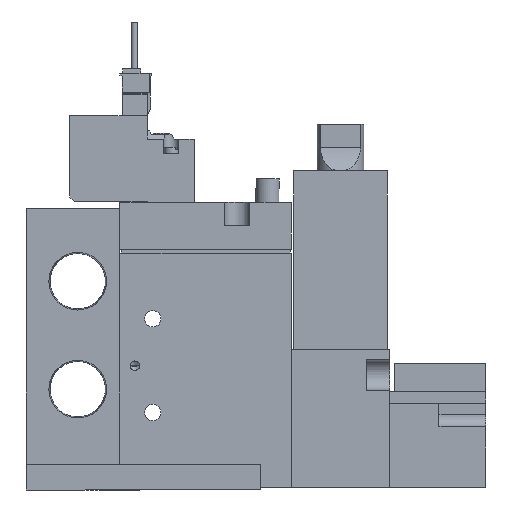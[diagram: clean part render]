
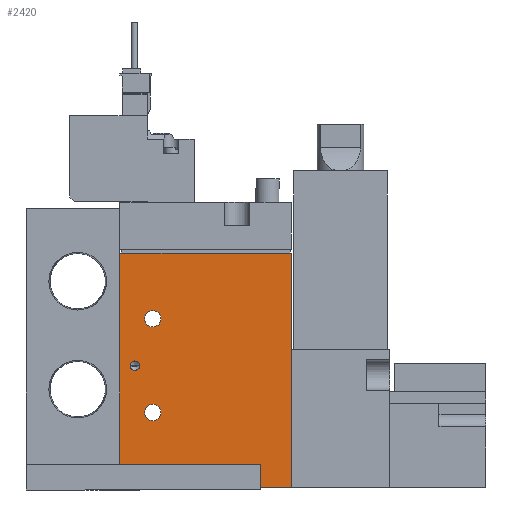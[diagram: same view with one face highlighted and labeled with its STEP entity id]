
A CAD part, left-side view. The second image highlights one B-rep face of the part: STEP entity #2420.
In plain terms, the highlighted planar face has unit normal (-1, 0, 0) as drawn and (1, 0, 0) by its records, which use the part's own axes.
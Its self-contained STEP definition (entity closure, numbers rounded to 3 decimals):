
#2420=ADVANCED_FACE('',(#3570,#3571,#3572,#3573),#3574,.F.);
#3570=FACE_BOUND('',#6017,.T.);
#3571=FACE_BOUND('',#6018,.T.);
#3572=FACE_BOUND('',#6019,.T.);
#3573=FACE_OUTER_BOUND('',#6020,.T.);
#3574=PLANE('',#6021);
#6017=EDGE_LOOP('',(#8781));
#6018=EDGE_LOOP('',(#8782));
#6019=EDGE_LOOP('',(#8783));
#6020=EDGE_LOOP('',(#8784,#8785,#8786,#8787));
#6021=AXIS2_PLACEMENT_3D('',#8788,#8789,#8790);
#8781=ORIENTED_EDGE('',*,*,#16810,.F.);
#8782=ORIENTED_EDGE('',*,*,#16828,.T.);
#8783=ORIENTED_EDGE('',*,*,#16814,.T.);
#8784=ORIENTED_EDGE('',*,*,#16829,.T.);
#8785=ORIENTED_EDGE('',*,*,#16826,.F.);
#8786=ORIENTED_EDGE('',*,*,#16823,.F.);
#8787=ORIENTED_EDGE('',*,*,#16830,.T.);
#8788=CARTESIAN_POINT('',(8.5,-19.444,50.0));
#8789=DIRECTION('',(-1.0,0.0,0.0));
#8790=DIRECTION('',(0.0,0.0,1.0));
#16810=EDGE_CURVE('',#19494,#19494,#19495,.T.);
#16814=EDGE_CURVE('',#19500,#19500,#19501,.T.);
#16823=EDGE_CURVE('',#19516,#19518,#19519,.T.);
#16826=EDGE_CURVE('',#19518,#19521,#19523,.T.);
#16828=EDGE_CURVE('',#19524,#19524,#19525,.T.);
#16829=EDGE_CURVE('',#19526,#19521,#19527,.T.);
#16830=EDGE_CURVE('',#19516,#19526,#19528,.T.);
#19494=VERTEX_POINT('',#24038);
#19495=CIRCLE('',#24039,1.0);
#19500=VERTEX_POINT('',#24044);
#19501=CIRCLE('',#24045,1.75);
#19516=VERTEX_POINT('',#24064);
#19518=VERTEX_POINT('',#24067);
#19519=LINE('',#24068,#24069);
#19521=VERTEX_POINT('',#24072);
#19523=LINE('',#24075,#24076);
#19524=VERTEX_POINT('',#24077);
#19525=CIRCLE('',#24078,1.75);
#19526=VERTEX_POINT('',#24079);
#19527=LINE('',#24080,#24081);
#19528=LINE('',#24082,#24083);
#24038=CARTESIAN_POINT('',(8.5,-17.244,26.0));
#24039=AXIS2_PLACEMENT_3D('',#30509,#30510,#30511);
#24044=CARTESIAN_POINT('',(8.5,-10.694,16.0));
#24045=AXIS2_PLACEMENT_3D('',#30518,#30519,#30520);
#24064=CARTESIAN_POINT('',(8.5,-19.444,50.0));
#24067=CARTESIAN_POINT('',(8.5,17.056,50.0));
#24068=CARTESIAN_POINT('',(8.5,-19.444,50.0));
#24069=VECTOR('',#30535,1.0);
#24072=CARTESIAN_POINT('',(8.5,17.056,0.0));
#24075=CARTESIAN_POINT('',(8.5,17.056,50.0));
#24076=VECTOR('',#30538,1.0);
#24077=CARTESIAN_POINT('',(8.5,-10.694,36.0));
#24078=AXIS2_PLACEMENT_3D('',#30539,#30540,#30541);
#24079=CARTESIAN_POINT('',(8.5,-19.444,0.0));
#24080=CARTESIAN_POINT('',(8.5,-19.444,0.0));
#24081=VECTOR('',#30542,1.0);
#24082=CARTESIAN_POINT('',(8.5,-19.444,50.0));
#24083=VECTOR('',#30543,1.0);
#30509=CARTESIAN_POINT('',(8.5,-16.244,26.0));
#30510=DIRECTION('',(1.0,0.,0.0));
#30511=DIRECTION('',(0.,-1.0,0.0));
#30518=CARTESIAN_POINT('',(8.5,-12.444,16.0));
#30519=DIRECTION('',(-1.0,0.0,0.0));
#30520=DIRECTION('',(0.0,1.0,0.0));
#30535=DIRECTION('',(0.0,1.0,0.0));
#30538=DIRECTION('',(0.0,0.0,-1.0));
#30539=CARTESIAN_POINT('',(8.5,-12.444,36.0));
#30540=DIRECTION('',(-1.0,0.0,0.0));
#30541=DIRECTION('',(0.0,1.0,0.0));
#30542=DIRECTION('',(0.0,1.0,0.0));
#30543=DIRECTION('',(0.0,0.0,-1.0));
